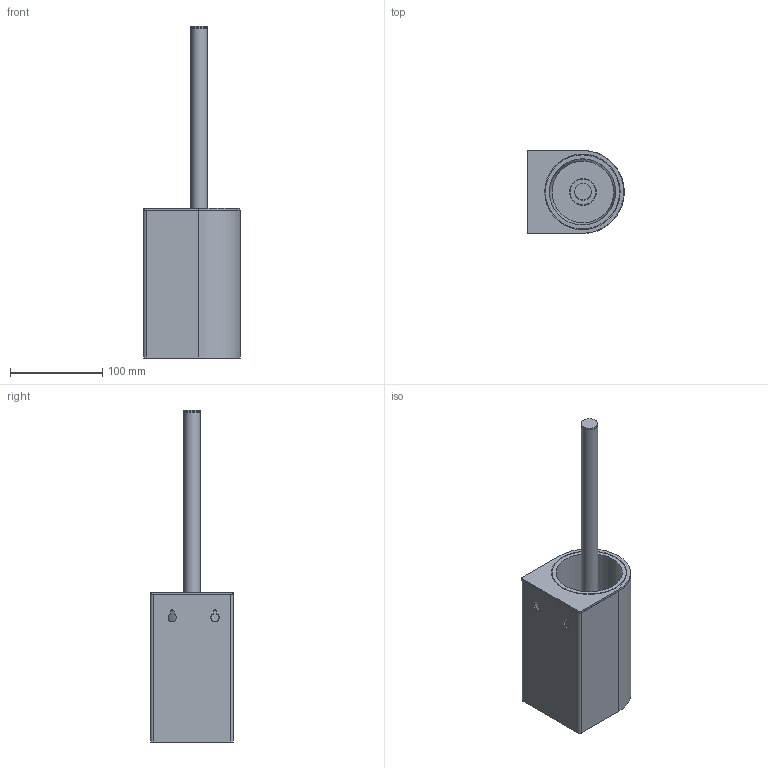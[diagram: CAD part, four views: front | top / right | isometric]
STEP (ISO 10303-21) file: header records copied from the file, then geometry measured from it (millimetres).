
FILE_DESCRIPTION(/* description */ (''),/* implementation_level */ '2;1');
FILE_NAME(/* name */ '4111 668',/* time_stamp */ '2019-08-20T09:52:51+08:00',/* author */ (''),/* organization */ (''),/* preprocessor_version */ 'ST-DEVELOPER v9',/* originating_system */ 'UGS - NX 4.0',/* authorisation */ '');
FILE_SCHEMA (('CONFIG_CONTROL_DESIGN'));
Length unit declared in the file: millimetre
Products named in the file (1): w337D95ig66
Bounding box: 105 x 90 x 360.8 mm (x, y, z)
Volume: 442121.8 mm3; surface area: 245471 mm2
Topology: 8 solids, 8 shells, 122 faces, 303 edges, 199 vertices
Faces by surface type: plane 74, cylinder 37, cone 8, sphere 3
Full cylindrical faces by diameter (mm): 16 x1, 16.6 x1, 18 x2, 27.8 x1, 29 x1, 72 x1, 75 x1, 77 x1, 80.5 x1, 82 x1
Entity records: 3647 total; most frequent: CARTESIAN_POINT 649, DIRECTION 614, ORIENTED_EDGE 572, EDGE_CURVE 286, AXIS2_PLACEMENT_3D 217, VERTEX_POINT 197, LINE 180, VECTOR 180
